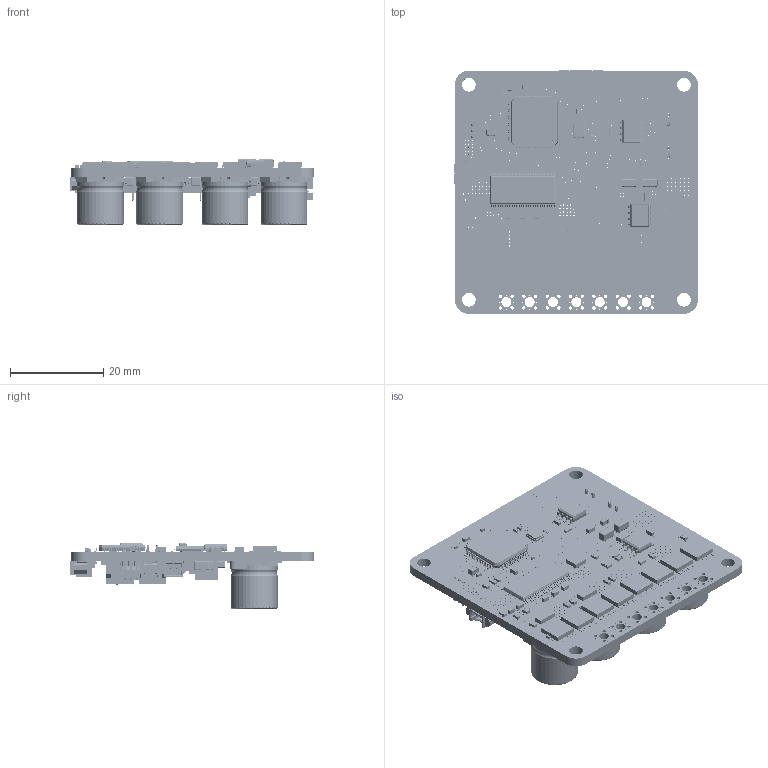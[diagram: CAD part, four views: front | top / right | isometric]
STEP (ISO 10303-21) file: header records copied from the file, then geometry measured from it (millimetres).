
FILE_DESCRIPTION(/* description */ (''),/* implementation_level */ '2;1');
FILE_NAME(/* name */ 'NDrive-Z1-V1.1-48V.step',/* time_stamp */ '2024-10-26T07:07:27+05:30',/* author */ (''),/* organization */ (''),/* preprocessor_version */ 'ST-DEVELOPER v20',/* originating_system */ 'Autodesk Translation Framework v13.20.0.188',/* authorisation */ '');
FILE_SCHEMA (('AUTOMOTIVE_DESIGN { 1 0 10303 214 3 1 1 }'));
Products named in the file (199): v4.0_z1_right_angled_blue; Board; Packages; ABM3B; Flat; Pins; SOP50P810X120-57N; Body (1); PinsArrayLR; ThermalPad; CAPC3216X180N; Fillet1 (3); Fillet2 (3); body2 (3); LEDC1608X80N; 36595674; Light; Body (2); Anode Bottom; Cathode Bottom; Anode; Cathode; Base (1); TPHR9003NLL1Q; Body (4); Pins (1); SHORT_TOP-25; TP06SQ; TP06SQ (1); TP06SQ (3); QFN50P300X300X100-17N; NR6028T220M; 533980471; CAPC1608X90N (2); 36500576; Part 3; Part 2; Part 1; CAPC1005X55N (2); 36624519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
Assembly tree (284 placements, depth 5):
  v4.0_z1_right_angled_blue
    Board
    Packages
      ABM3B
        Flat
        Pins
      CAPC1608X90N  x7
      CAPC1608X90N (2)  x4
        36500576
          Part 3
          Part 2
          Part 1
      SOP50P810X120-57N
        Body (1)
        PinsArrayLR
        ThermalPad
      CAPC1005X55N (2)  x5
        36624519
          Part 3 (2)
          Part 2 (2)
          Part 1 (2)
      CAPC1608X90N (3)  x4
      CAPC3216X180N
        Fillet1 (3)
        Fillet2 (3)
        body2 (3)
      LEDC1608X80N
        36595674
          Light
          Body (2)
          Anode Bottom
          Cathode Bottom
          Anode
          Cathode
          Base (1)
      RESC1608X55N (1)  x7
      RESC1608X55N (3)  x2
        1 (1)
        2 (1)
        3 (1)
        Yageo Logo (1)
      RESC1608X55N (4)  x12
      TPHR9003NLL1Q  x8
        Body (4)
        Pins (1)
      SHORT_TOP-25  x5
      TP06SQ
      TP06SQ (1)
      TP06SQ (3)
      QFN50P300X300X100-17N
      NR6028T220M
      533980471
      CAPC1608X87N (1)
      CAPC3216X110N
      CAPC0603X33N  x2
        36838743
          Part 3 (1)
          Part 2 (1)
          Part 1 (1)
      CAPC1005X55N
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Bounding box: 52.17 x 52.11 x 14.03 mm (x, y, z)
Volume: 10304.7 mm3; surface area: 35882.6 mm2
Topology: 2066 solids, 2066 shells, 27909 faces, 69799 edges, 45659 vertices
Faces by surface type: plane 19510, cylinder 7895, sphere 447, bspline 44, torus 12, cone 1
Full cylindrical faces by diameter (mm): 0.155 x1, 0.23 x1714, 0.28 x147, 0.3 x2004, 0.33 x29, 0.35 x184, 0.4 x28, 0.5 x3, 0.53 x15, 0.6 x12, 0.73 x160, 0.762 x1, 0.8 x128, 1.1 x8, 1.2 x8, 2.13 x35, 2.2 x28, 2.93 x12, 3 x16, 10 x8
Entity records: 758042 total; most frequent: CARTESIAN_POINT 130103, DIRECTION 126347, ORIENTED_EDGE 123574, EDGE_CURVE 61787, LINE 47197, VECTOR 47197, VERTEX_POINT 40867, AXIS2_PLACEMENT_3D 39575
